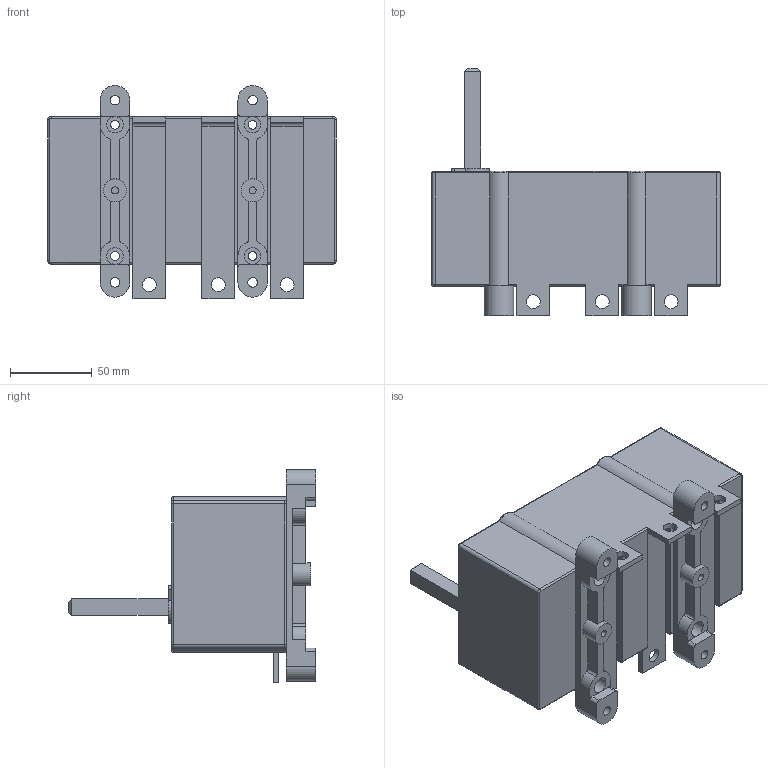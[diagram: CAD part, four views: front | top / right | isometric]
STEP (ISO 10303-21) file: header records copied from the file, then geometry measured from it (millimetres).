
FILE_DESCRIPTION(/* description */ (''),/* implementation_level */ '2;1');
FILE_NAME(/* name */ 'RA250 P3 A.stp',/* time_stamp */ '2021-08-18T07:48:42+02:00',/* author */ (''),/* organization */ (''),/* preprocessor_version */ 'ST-DEVELOPER v18.1',/* originating_system */ 'SIEMENS PLM Software NX 1965',/* authorisation */ '');
FILE_SCHEMA (('AUTOMOTIVE_DESIGN { 1 0 10303 214 3 1 1 1 }'));
Length unit declared in the file: millimetre
Products named in the file (1): RA250 P3 A
Bounding box: 176 x 151 x 130 mm (x, y, z)
Volume: 1140197.5 mm3; surface area: 98232.9 mm2
Topology: 1 solids, 1 shells, 205 faces, 541 edges, 351 vertices
Faces by surface type: plane 104, cylinder 89, bspline 8, torus 4
Full cylindrical faces by diameter (mm): 4.3 x2, 5.3 x4, 5.8 x4, 8.5 x6, 10 x8, 14 x2
Entity records: 6497 total; most frequent: CARTESIAN_POINT 1428, DIRECTION 1061, ORIENTED_EDGE 1002, EDGE_CURVE 501, AXIS2_PLACEMENT_3D 378, VERTEX_POINT 332, LINE 305, VECTOR 305
